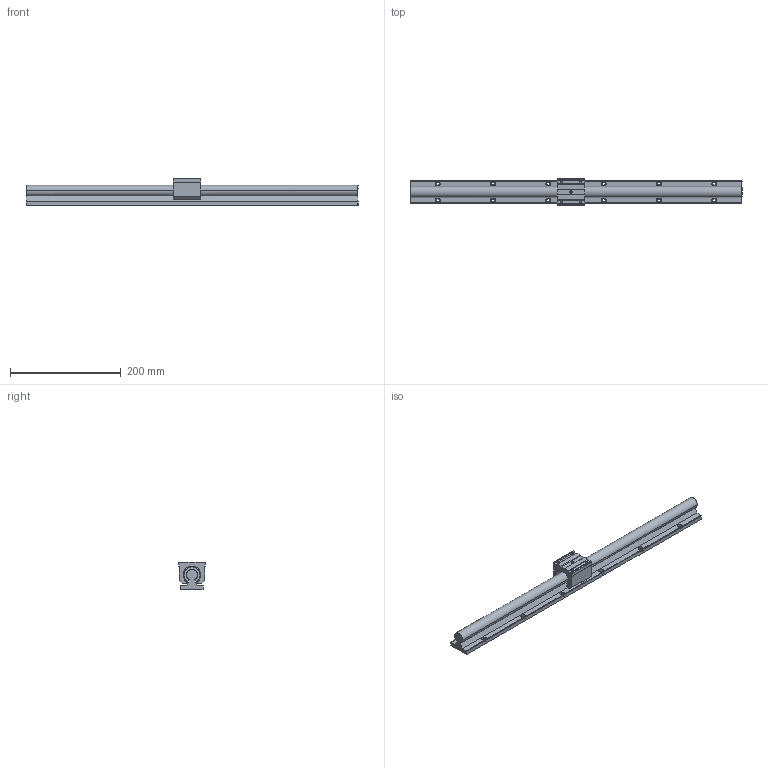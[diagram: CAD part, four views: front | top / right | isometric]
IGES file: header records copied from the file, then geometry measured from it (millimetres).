
Global section: file name: No Iges File Name specified; native system: AutoDesk Inventor R10; preprocessor: AutoDesk Inventor Iges Exporter R10; author: No Author specified; organization: No Organization specified; date: 20101221.091130; units: millimetre
Bounding box: 600 x 48 x 50 mm (x, y, z)
Surface area: 109524.3 mm2 (no closed solid volume)
Topology: 0 solids, 0 shells, 176 faces, 1368 edges, 1358 vertices
Faces by surface type: bspline 176
